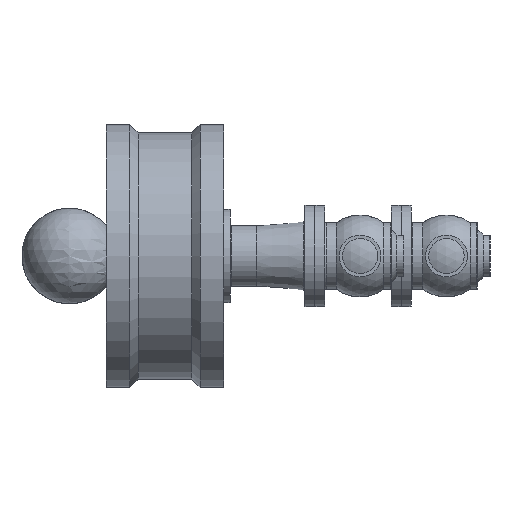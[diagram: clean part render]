
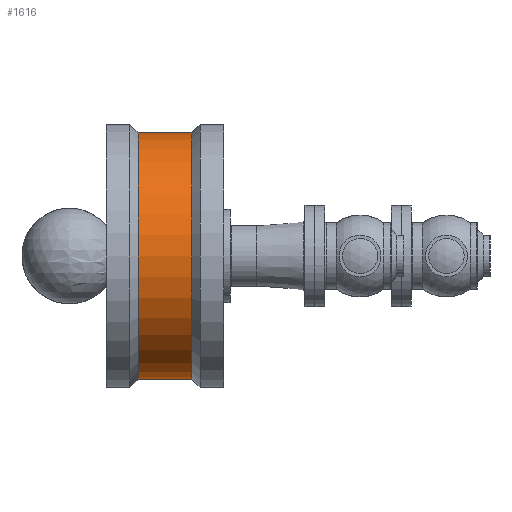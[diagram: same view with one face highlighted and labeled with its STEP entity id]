
A CAD part, left-side view. The second image highlights one B-rep face of the part: STEP entity #1616.
In plain terms, the highlighted cylindrical face has radius 187 mm (diameter 374 mm), a full revolution.
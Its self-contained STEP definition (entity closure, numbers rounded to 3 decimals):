
#246=FACE_OUTER_BOUND('',#343,.T.);
#343=EDGE_LOOP('',(#1174,#1175,#1176,#1177,#1178,#1179));
#456=LINE('',#2915,#498);
#498=VECTOR('',#2260,187.);
#557=CIRCLE('',#1890,187.);
#558=CIRCLE('',#1891,187.);
#561=CIRCLE('',#1895,187.);
#562=CIRCLE('',#1896,187.);
#739=VERTEX_POINT('',#2901);
#740=VERTEX_POINT('',#2902);
#743=VERTEX_POINT('',#2911);
#744=VERTEX_POINT('',#2912);
#916=EDGE_CURVE('',#739,#740,#557,.T.);
#917=EDGE_CURVE('',#740,#739,#558,.T.);
#921=EDGE_CURVE('',#743,#744,#561,.T.);
#922=EDGE_CURVE('',#744,#743,#562,.T.);
#923=EDGE_CURVE('',#744,#740,#456,.T.);
#1174=ORIENTED_EDGE('',*,*,#921,.F.);
#1175=ORIENTED_EDGE('',*,*,#922,.F.);
#1176=ORIENTED_EDGE('',*,*,#923,.T.);
#1177=ORIENTED_EDGE('',*,*,#917,.T.);
#1178=ORIENTED_EDGE('',*,*,#916,.T.);
#1179=ORIENTED_EDGE('',*,*,#923,.F.);
#1571=CYLINDRICAL_SURFACE('',#1894,187.);
#1616=ADVANCED_FACE('',(#246),#1571,.T.);
#1890=AXIS2_PLACEMENT_3D('',#2903,#2245,#2246);
#1891=AXIS2_PLACEMENT_3D('',#2904,#2247,#2248);
#1894=AXIS2_PLACEMENT_3D('',#2910,#2254,#2255);
#1895=AXIS2_PLACEMENT_3D('',#2913,#2256,#2257);
#1896=AXIS2_PLACEMENT_3D('',#2914,#2258,#2259);
#2245=DIRECTION('center_axis',(0.,0.,1.));
#2246=DIRECTION('ref_axis',(1.,0.,0.));
#2247=DIRECTION('center_axis',(0.,0.,1.));
#2248=DIRECTION('ref_axis',(1.,0.,0.));
#2254=DIRECTION('center_axis',(0.,0.,1.));
#2255=DIRECTION('ref_axis',(1.,0.,0.));
#2256=DIRECTION('center_axis',(0.,0.,1.));
#2257=DIRECTION('ref_axis',(1.,0.,0.));
#2258=DIRECTION('center_axis',(0.,0.,1.));
#2259=DIRECTION('ref_axis',(1.,0.,0.));
#2260=DIRECTION('',(0.,0.,-1.));
#2901=CARTESIAN_POINT('',(187.,0.,51.5));
#2902=CARTESIAN_POINT('',(-187.,0.,51.5));
#2903=CARTESIAN_POINT('Origin',(0.,0.,51.5));
#2904=CARTESIAN_POINT('Origin',(0.,0.,51.5));
#2910=CARTESIAN_POINT('Origin',(0.,0.,92.));
#2911=CARTESIAN_POINT('',(187.,0.,132.5));
#2912=CARTESIAN_POINT('',(-187.,0.,132.5));
#2913=CARTESIAN_POINT('Origin',(0.,0.,132.5));
#2914=CARTESIAN_POINT('Origin',(0.,0.,132.5));
#2915=CARTESIAN_POINT('',(-187.,0.,92.));
